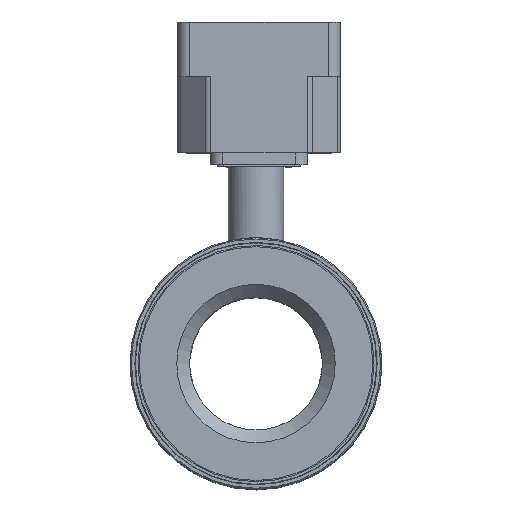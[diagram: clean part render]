
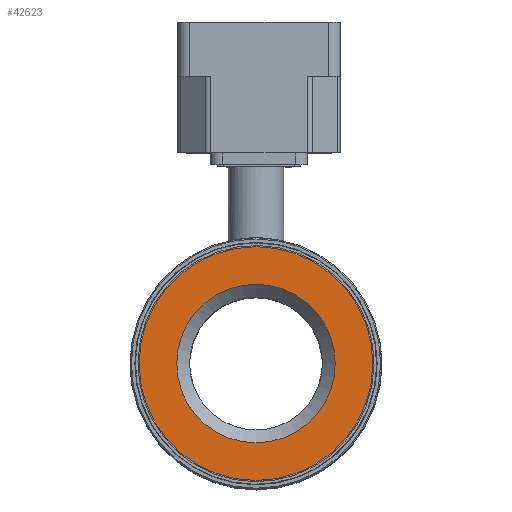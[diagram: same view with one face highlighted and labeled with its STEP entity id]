
A CAD part, top view. The second image highlights one B-rep face of the part: STEP entity #42623.
In plain terms, the highlighted planar face has unit normal (0, 0, 1).
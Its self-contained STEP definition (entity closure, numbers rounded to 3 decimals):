
#1947=PLANE('',#45339);
#2279=FACE_BOUND('',#7945,.T.);
#5439=FACE_OUTER_BOUND('',#7944,.T.);
#7944=EDGE_LOOP('',(#37669,#37670));
#7945=EDGE_LOOP('',(#37671,#37672));
#16586=CIRCLE('',#45337,59.);
#16587=CIRCLE('',#45338,59.);
#16588=CIRCLE('',#45340,40.007);
#16589=CIRCLE('',#45341,40.007);
#20385=VERTEX_POINT('',#78624);
#20386=VERTEX_POINT('',#78626);
#20387=VERTEX_POINT('',#78630);
#20388=VERTEX_POINT('',#78631);
#26161=EDGE_CURVE('',#20386,#20385,#16586,.T.);
#26162=EDGE_CURVE('',#20385,#20386,#16587,.T.);
#26163=EDGE_CURVE('',#20387,#20388,#16588,.T.);
#26164=EDGE_CURVE('',#20388,#20387,#16589,.T.);
#37669=ORIENTED_EDGE('',*,*,#26161,.T.);
#37670=ORIENTED_EDGE('',*,*,#26162,.T.);
#37671=ORIENTED_EDGE('',*,*,#26163,.F.);
#37672=ORIENTED_EDGE('',*,*,#26164,.F.);
#42623=ADVANCED_FACE('',(#5439,#2279),#1947,.F.);
#45337=AXIS2_PLACEMENT_3D('',#78627,#54543,#54544);
#45338=AXIS2_PLACEMENT_3D('',#78628,#54545,#54546);
#45339=AXIS2_PLACEMENT_3D('',#78629,#54547,#54548);
#45340=AXIS2_PLACEMENT_3D('',#78632,#54549,#54550);
#45341=AXIS2_PLACEMENT_3D('',#78633,#54551,#54552);
#54543=DIRECTION('center_axis',(0.,0.,
1.));
#54544=DIRECTION('ref_axis',(0.,-1.,0.));
#54545=DIRECTION('center_axis',(0.,0.,
1.));
#54546=DIRECTION('ref_axis',(0.,-1.,0.));
#54547=DIRECTION('center_axis',(0.,0.,
-1.));
#54548=DIRECTION('ref_axis',(1.,0.,0.));
#54549=DIRECTION('center_axis',(0.,0.,
1.));
#54550=DIRECTION('ref_axis',(0.,-1.,0.));
#54551=DIRECTION('center_axis',(0.,0.,
1.));
#54552=DIRECTION('ref_axis',(0.,-1.,0.));
#78624=CARTESIAN_POINT('',(0.073,-94.766,176.95));
#78626=CARTESIAN_POINT('',(0.073,-212.766,176.95));
#78627=CARTESIAN_POINT('Origin',(0.073,-153.766,176.95));
#78628=CARTESIAN_POINT('Origin',(0.073,-153.766,176.95));
#78629=CARTESIAN_POINT('Origin',(0.073,-203.269,176.95));
#78630=CARTESIAN_POINT('',(0.073,-193.773,176.95));
#78631=CARTESIAN_POINT('',(0.073,-113.759,176.95));
#78632=CARTESIAN_POINT('Origin',(0.073,-153.766,176.95));
#78633=CARTESIAN_POINT('Origin',(0.073,-153.766,176.95));
